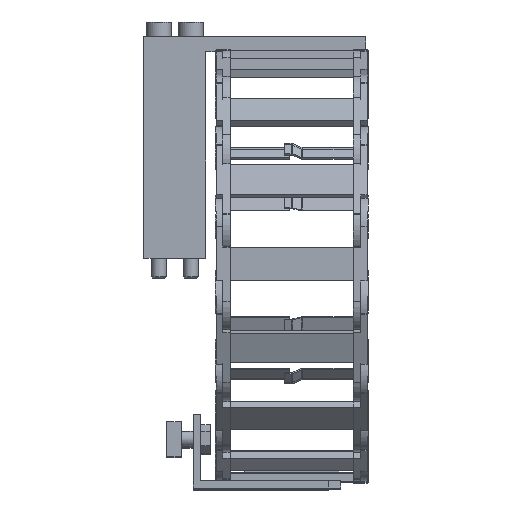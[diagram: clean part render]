
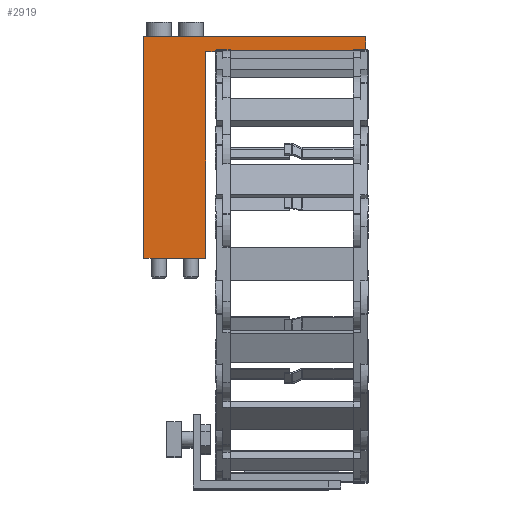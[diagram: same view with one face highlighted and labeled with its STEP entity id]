
A CAD part, top view. The second image highlights one B-rep face of the part: STEP entity #2919.
In plain terms, the highlighted planar face has unit normal (0, 0, 1).
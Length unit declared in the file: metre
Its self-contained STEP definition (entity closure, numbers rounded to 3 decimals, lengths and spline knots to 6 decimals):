
#2919 = ADVANCED_FACE( '', ( #7628 ), #7629, .T. );
#7628 = FACE_OUTER_BOUND( '', #14471, .T. );
#7629 = PLANE( '', #14472 );
#14471 = EDGE_LOOP( '', ( #22716, #22717, #22718, #22719, #22720, #22721, #22722 ) );
#14472 = AXIS2_PLACEMENT_3D( '', #22723, #22724, #22725 );
#22716 = ORIENTED_EDGE( '', *, *, #42588, .F. );
#22717 = ORIENTED_EDGE( '', *, *, #42589, .T. );
#22718 = ORIENTED_EDGE( '', *, *, #42590, .T. );
#22719 = ORIENTED_EDGE( '', *, *, #42591, .T. );
#22720 = ORIENTED_EDGE( '', *, *, #42592, .T. );
#22721 = ORIENTED_EDGE( '', *, *, #42593, .F. );
#22722 = ORIENTED_EDGE( '', *, *, #42594, .F. );
#22723 = CARTESIAN_POINT( '', ( 0.055, 0.184, 0.021 ) );
#22724 = DIRECTION( '', ( 0., 0., 1. ) );
#22725 = DIRECTION( '', ( 1., 0., 0. ) );
#42588 = EDGE_CURVE( '', #51996, #51997, #51998, .T. );
#42589 = EDGE_CURVE( '', #51996, #51999, #52000, .T. );
#42590 = EDGE_CURVE( '', #51999, #52001, #52002, .T. );
#42591 = EDGE_CURVE( '', #52001, #52003, #52004, .T. );
#42592 = EDGE_CURVE( '', #52003, #52005, #52006, .T. );
#42593 = EDGE_CURVE( '', #52007, #52005, #52008, .T. );
#42594 = EDGE_CURVE( '', #51997, #52007, #52009, .T. );
#51996 = VERTEX_POINT( '', #65179 );
#51997 = VERTEX_POINT( '', #65180 );
#51998 = LINE( '', #65181, #65182 );
#51999 = VERTEX_POINT( '', #65183 );
#52000 = LINE( '', #65184, #65185 );
#52001 = VERTEX_POINT( '', #65186 );
#52002 = LINE( '', #65187, #65188 );
#52003 = VERTEX_POINT( '', #65189 );
#52004 = LINE( '', #65190, #65191 );
#52005 = VERTEX_POINT( '', #65192 );
#52006 = LINE( '', #65193, #65194 );
#52007 = VERTEX_POINT( '', #65195 );
#52008 = LINE( '', #65196, #65197 );
#52009 = LINE( '', #65198, #65199 );
#65179 = CARTESIAN_POINT( '', ( 0.07, 0.178, 0.021 ) );
#65180 = CARTESIAN_POINT( '', ( 0.009, 0.178, 0.021 ) );
#65181 = CARTESIAN_POINT( '', ( 0.055, 0.178, 0.021 ) );
#65182 = VECTOR( '', #80346, 1. );
#65183 = CARTESIAN_POINT( '', ( 0.07, 0.184, 0.021 ) );
#65184 = CARTESIAN_POINT( '', ( 0.07, 0.178, 0.021 ) );
#65185 = VECTOR( '', #80347, 1. );
#65186 = CARTESIAN_POINT( '', ( -0.02, 0.184, 0.021 ) );
#65187 = CARTESIAN_POINT( '', ( 0.055, 0.184, 0.021 ) );
#65188 = VECTOR( '', #80348, 1. );
#65189 = CARTESIAN_POINT( '', ( -0.02, 0.094, 0.021 ) );
#65190 = CARTESIAN_POINT( '', ( -0.02, 0.184, 0.021 ) );
#65191 = VECTOR( '', #80349, 1. );
#65192 = CARTESIAN_POINT( '', ( 0.005, 0.094, 0.021 ) );
#65193 = CARTESIAN_POINT( '', ( -0.02, 0.094, 0.021 ) );
#65194 = VECTOR( '', #80350, 1. );
#65195 = CARTESIAN_POINT( '', ( 0.005, 0.178, 0.021 ) );
#65196 = CARTESIAN_POINT( '', ( 0.005, 0.178, 0.021 ) );
#65197 = VECTOR( '', #80351, 1. );
#65198 = CARTESIAN_POINT( '', ( 0.055, 0.178, 0.021 ) );
#65199 = VECTOR( '', #80352, 1. );
#80346 = DIRECTION( '', ( -1., 0., 0. ) );
#80347 = DIRECTION( '', ( 0., 1., 0. ) );
#80348 = DIRECTION( '', ( -1., 0., 0. ) );
#80349 = DIRECTION( '', ( 0., -1., 0. ) );
#80350 = DIRECTION( '', ( 1., 0., 0. ) );
#80351 = DIRECTION( '', ( 0., -1., 0. ) );
#80352 = DIRECTION( '', ( -1., 0., 0. ) );
